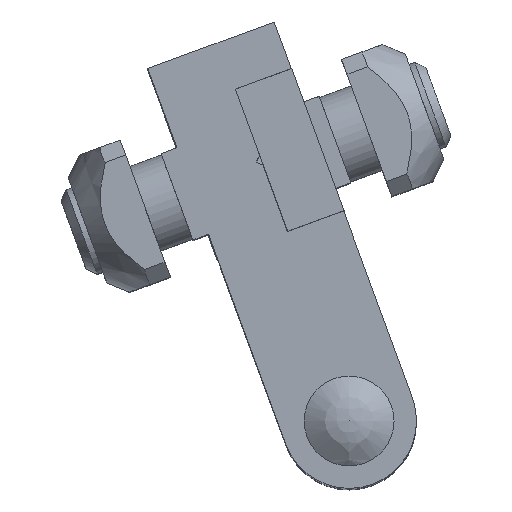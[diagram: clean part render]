
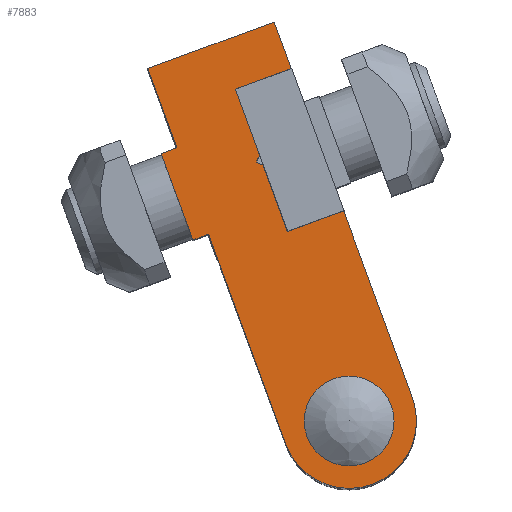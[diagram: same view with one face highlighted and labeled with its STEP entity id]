
A CAD part, top view. The second image highlights one B-rep face of the part: STEP entity #7883.
In plain terms, the highlighted planar face has unit normal (0, 0, 1) as drawn and (0, 0, -1) by its records, which use the part's own axes.
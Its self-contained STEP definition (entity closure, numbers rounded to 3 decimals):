
#6872=CARTESIAN_POINT('',(0.,6.197,-40.0));
#6873=VERTEX_POINT('',#6872);
#6880=CARTESIAN_POINT('',(-0.5,6.66,-40.0));
#6881=VERTEX_POINT('',#6880);
#6882=CARTESIAN_POINT('',(0.,6.197,-40.0));
#6883=DIRECTION('',(-0.734,0.68,0.0));
#6884=VECTOR('',#6883,0.682);
#6885=LINE('',#6882,#6884);
#6886=EDGE_CURVE('',#6873,#6881,#6885,.T.);
#6930=CARTESIAN_POINT('',(0.463,6.697,-40.0));
#6931=VERTEX_POINT('',#6930);
#6938=CARTESIAN_POINT('',(0.463,6.697,-40.0));
#6939=DIRECTION('',(-0.68,-0.734,0.0));
#6940=VECTOR('',#6939,0.682);
#6941=LINE('',#6938,#6940);
#6942=EDGE_CURVE('',#6931,#6873,#6941,.T.);
#6980=CARTESIAN_POINT('',(6.732,6.697,-40.0));
#6981=VERTEX_POINT('',#6980);
#6988=CARTESIAN_POINT('',(6.732,6.697,-40.0));
#6989=DIRECTION('',(-1.0,0.0,0.0));
#6990=VECTOR('',#6989,6.268);
#6991=LINE('',#6988,#6990);
#6992=EDGE_CURVE('',#6981,#6931,#6991,.T.);
#7037=CARTESIAN_POINT('',(-24.5,0.0,-40.0));
#7038=VERTEX_POINT('',#7037);
#7045=CARTESIAN_POINT('',(-4.571,0.,-40.0));
#7046=VERTEX_POINT('',#7045);
#7047=CARTESIAN_POINT('',(-24.5,0.0,-40.0));
#7048=DIRECTION('',(1.0,0.0,0.0));
#7049=VECTOR('',#7048,19.929);
#7050=LINE('',#7047,#7049);
#7051=EDGE_CURVE('',#7038,#7046,#7050,.T.);
#7375=CARTESIAN_POINT('',(-6.768,6.66,-40.0));
#7376=VERTEX_POINT('',#7375);
#7377=CARTESIAN_POINT('',(-0.5,6.66,-40.0));
#7378=DIRECTION('',(-1.0,0.0,0.0));
#7379=VECTOR('',#7378,6.268);
#7380=LINE('',#7377,#7379);
#7381=EDGE_CURVE('',#6881,#7376,#7380,.T.);
#7416=CARTESIAN_POINT('',(3.629,0.,-40.0));
#7417=VERTEX_POINT('',#7416);
#7424=CARTESIAN_POINT('',(11.15,0.0,-40.0));
#7425=VERTEX_POINT('',#7424);
#7426=CARTESIAN_POINT('',(3.629,0.,-40.0));
#7427=DIRECTION('',(1.0,0.0,0.0));
#7428=VECTOR('',#7427,7.521);
#7429=LINE('',#7426,#7428);
#7430=EDGE_CURVE('',#7417,#7425,#7429,.T.);
#7465=CARTESIAN_POINT('',(3.629,-1.5,-40.0));
#7466=VERTEX_POINT('',#7465);
#7473=CARTESIAN_POINT('',(3.629,-1.5,-40.0));
#7474=DIRECTION('',(0.0,1.0,0.0));
#7475=VECTOR('',#7474,1.5);
#7476=LINE('',#7473,#7475);
#7477=EDGE_CURVE('',#7466,#7417,#7476,.T.);
#7490=CARTESIAN_POINT('',(-4.571,-1.5,-40.0));
#7491=VERTEX_POINT('',#7490);
#7498=CARTESIAN_POINT('',(-4.571,-1.5,-40.0));
#7499=DIRECTION('',(1.0,0.0,0.0));
#7500=VECTOR('',#7499,8.2);
#7501=LINE('',#7498,#7500);
#7502=EDGE_CURVE('',#7491,#7466,#7501,.T.);
#7515=CARTESIAN_POINT('',(-4.571,0.0,-40.0));
#7516=DIRECTION('',(0.0,-1.0,0.0));
#7517=VECTOR('',#7516,1.5);
#7518=LINE('',#7515,#7517);
#7519=EDGE_CURVE('',#7046,#7491,#7518,.T.);
#7531=CARTESIAN_POINT('',(-21.5,6.,-40.0));
#7532=VERTEX_POINT('',#7531);
#7533=CARTESIAN_POINT('',(-24.5,6.,-40.0));
#7534=DIRECTION('',(0.0,0.0,1.0));
#7535=DIRECTION('',(-1.0,0.0,0.0));
#7536=AXIS2_PLACEMENT_3D('',#7533,#7534,#7535);
#7537=CIRCLE('',#7536,3.);
#7538=EDGE_CURVE('',#7532,#7532,#7537,.T.);
#7559=CARTESIAN_POINT('',(11.15,12.,-40.0));
#7560=VERTEX_POINT('',#7559);
#7561=CARTESIAN_POINT('',(11.15,0.0,-40.0));
#7562=DIRECTION('',(0.0,1.0,0.0));
#7563=VECTOR('',#7562,12.);
#7564=LINE('',#7561,#7563);
#7565=EDGE_CURVE('',#7425,#7560,#7564,.T.);
#7590=CARTESIAN_POINT('',(6.732,12.,-40.0));
#7591=VERTEX_POINT('',#7590);
#7592=CARTESIAN_POINT('',(11.15,12.,-40.0));
#7593=DIRECTION('',(-1.0,0.0,0.0));
#7594=VECTOR('',#7593,4.418);
#7595=LINE('',#7592,#7594);
#7596=EDGE_CURVE('',#7560,#7591,#7595,.T.);
#7621=CARTESIAN_POINT('',(6.732,12.,-40.0));
#7622=DIRECTION('',(0.0,-1.0,0.0));
#7623=VECTOR('',#7622,5.303);
#7624=LINE('',#7621,#7623);
#7625=EDGE_CURVE('',#7591,#6981,#7624,.T.);
#7684=CARTESIAN_POINT('',(-6.768,12.,-40.0));
#7685=VERTEX_POINT('',#7684);
#7686=CARTESIAN_POINT('',(-6.768,6.66,-40.0));
#7687=DIRECTION('',(0.0,1.0,0.0));
#7688=VECTOR('',#7687,5.34);
#7689=LINE('',#7686,#7688);
#7690=EDGE_CURVE('',#7376,#7685,#7689,.T.);
#7715=CARTESIAN_POINT('',(-24.5,12.,-40.0));
#7716=VERTEX_POINT('',#7715);
#7717=CARTESIAN_POINT('',(-6.768,12.,-40.0));
#7718=DIRECTION('',(-1.0,0.0,0.0));
#7719=VECTOR('',#7718,17.732);
#7720=LINE('',#7717,#7719);
#7721=EDGE_CURVE('',#7685,#7716,#7720,.T.);
#7746=CARTESIAN_POINT('',(-24.5,6.,-40.0));
#7747=DIRECTION('',(0.0,0.0,1.0));
#7748=DIRECTION('',(0.0,-1.0,0.0));
#7749=AXIS2_PLACEMENT_3D('',#7746,#7747,#7748);
#7750=CIRCLE('',#7749,6.);
#7751=EDGE_CURVE('',#7716,#7038,#7750,.T.);
#7858=CARTESIAN_POINT('',(-7.494,5.407,-40.0));
#7859=DIRECTION('',(0.0,0.0,1.0));
#7860=DIRECTION('',(1.0,0.0,0.0));
#7861=AXIS2_PLACEMENT_3D('',#7858,#7859,#7860);
#7862=PLANE('',#7861);
#7863=ORIENTED_EDGE('',*,*,#7565,.F.);
#7864=ORIENTED_EDGE('',*,*,#7430,.F.);
#7865=ORIENTED_EDGE('',*,*,#7477,.F.);
#7866=ORIENTED_EDGE('',*,*,#7502,.F.);
#7867=ORIENTED_EDGE('',*,*,#7519,.F.);
#7868=ORIENTED_EDGE('',*,*,#7051,.F.);
#7869=ORIENTED_EDGE('',*,*,#7751,.F.);
#7870=ORIENTED_EDGE('',*,*,#7721,.F.);
#7871=ORIENTED_EDGE('',*,*,#7690,.F.);
#7872=ORIENTED_EDGE('',*,*,#7381,.F.);
#7873=ORIENTED_EDGE('',*,*,#6886,.F.);
#7874=ORIENTED_EDGE('',*,*,#6942,.F.);
#7875=ORIENTED_EDGE('',*,*,#6992,.F.);
#7876=ORIENTED_EDGE('',*,*,#7625,.F.);
#7877=ORIENTED_EDGE('',*,*,#7596,.F.);
#7878=EDGE_LOOP('',(#7863,#7864,#7865,#7866,#7867,#7868,#7869,#7870,#7871,#7872,#7873,#7874,#7875,#7876,#7877));
#7879=FACE_OUTER_BOUND('',#7878,.T.);
#7880=ORIENTED_EDGE('',*,*,#7538,.T.);
#7881=EDGE_LOOP('',(#7880));
#7882=FACE_BOUND('',#7881,.T.);
#7883=ADVANCED_FACE('',(#7879,#7882),#7862,.F.);
